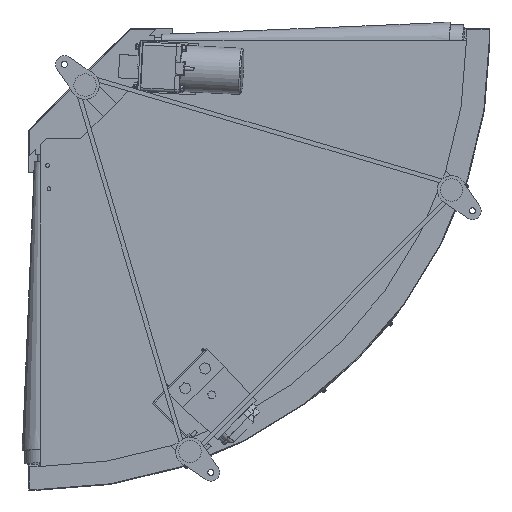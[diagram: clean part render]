
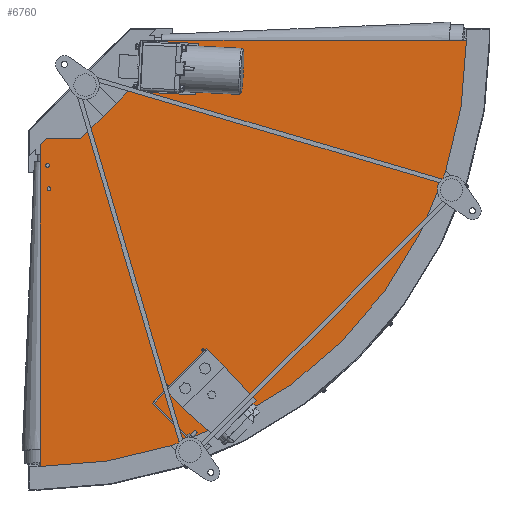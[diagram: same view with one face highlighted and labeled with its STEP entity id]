
A CAD part, front view. The second image highlights one B-rep face of the part: STEP entity #6760.
In plain terms, the highlighted planar face has unit normal (0, -1, 0).
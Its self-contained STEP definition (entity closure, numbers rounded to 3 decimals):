
#12 = EDGE_CURVE ( 'NONE', #25949, #38358, #553, .T. ) ;
#553 = LINE ( 'NONE', #16688, #2401 ) ;
#818 = CARTESIAN_POINT ( 'NONE',  ( 224., -152.7, 0. ) ) ;
#1082 = DIRECTION ( 'NONE',  ( 0., 0., -1. ) ) ;
#1154 = LINE ( 'NONE', #2167, #19800 ) ;
#1291 = CIRCLE ( 'NONE', #17933, 4. ) ;
#1315 = CIRCLE ( 'NONE', #18436, 4. ) ;
#1409 = DIRECTION ( 'NONE',  ( 0., 0., 1. ) ) ;
#1467 = DIRECTION ( 'NONE',  ( 0., 1., 0. ) ) ;
#2167 = CARTESIAN_POINT ( 'NONE',  ( 224., -152.7, 0. ) ) ;
#2401 = VECTOR ( 'NONE', #7579, 1000. ) ;
#2856 = CARTESIAN_POINT ( 'NONE',  ( 0., -152.7, -224. ) ) ;
#3492 = CARTESIAN_POINT ( 'NONE',  ( 14., -152.7, -210. ) ) ;
#3615 = LINE ( 'NONE', #16519, #5489 ) ;
#3932 = EDGE_CURVE ( 'NONE', #38303, #11724, #27855, .T. ) ;
#3980 = VERTEX_POINT ( 'NONE', #3492 ) ;
#4445 = DIRECTION ( 'NONE',  ( 0., 0., 1. ) ) ;
#4872 = CIRCLE ( 'NONE', #37830, 4. ) ;
#5016 = CARTESIAN_POINT ( 'NONE',  ( 210., -152.7, -14. ) ) ;
#5256 = ORIENTED_EDGE ( 'NONE', *, *, #9727, .F. ) ;
#5489 = VECTOR ( 'NONE', #21995, 1000. ) ;
#5633 = CIRCLE ( 'NONE', #26972, 4. ) ;
#5894 = CARTESIAN_POINT ( 'NONE',  ( 16., -152.7, -264. ) ) ;
#6060 = DIRECTION ( 'NONE',  ( 0., 0., -1. ) ) ;
#6136 = CARTESIAN_POINT ( 'NONE',  ( 912.5, -152.7, 0. ) ) ;
#6258 = VERTEX_POINT ( 'NONE', #818 ) ;
#6367 = ORIENTED_EDGE ( 'NONE', *, *, #37502, .F. ) ;
#6384 = DIRECTION ( 'NONE',  ( 0., 0., -1. ) ) ;
#6760 = ADVANCED_FACE ( 'NONE', ( #14156, #26699, #27632, #18807, #17436 ), #33267, .F. ) ;
#7530 = ORIENTED_EDGE ( 'NONE', *, *, #22059, .F. ) ;
#7579 = DIRECTION ( 'NONE',  ( 0., 0., 1. ) ) ;
#8595 = EDGE_LOOP ( 'NONE', ( #11328, #13429 ) ) ;
#9411 = AXIS2_PLACEMENT_3D ( 'NONE', #10167, #1467, #4445 ) ;
#9556 = VERTEX_POINT ( 'NONE', #15861 ) ;
#9669 = EDGE_CURVE ( 'NONE', #18019, #23298, #13264, .T. ) ;
#9727 = EDGE_CURVE ( 'NONE', #6258, #13460, #1154, .T. ) ;
#9756 = EDGE_LOOP ( 'NONE', ( #38096, #6367 ) ) ;
#10167 = CARTESIAN_POINT ( 'NONE',  ( 0., -152.7, 0. ) ) ;
#10595 = DIRECTION ( 'NONE',  ( 0.707, 0., 0.707 ) ) ;
#10758 = DIRECTION ( 'NONE',  ( 1., 0., 0. ) ) ;
#10759 = VERTEX_POINT ( 'NONE', #13451 ) ;
#11328 = ORIENTED_EDGE ( 'NONE', *, *, #3932, .F. ) ;
#11724 = VERTEX_POINT ( 'NONE', #23449 ) ;
#11878 = CARTESIAN_POINT ( 'NONE',  ( 18.5, -152.7, -317.937 ) ) ;
#12456 = ORIENTED_EDGE ( 'NONE', *, *, #35833, .F. ) ;
#12474 = DIRECTION ( 'NONE',  ( 0., 0., 1. ) ) ;
#12871 = VECTOR ( 'NONE', #10595, 1000. ) ;
#13039 = EDGE_CURVE ( 'NONE', #33413, #29042, #5633, .T. ) ;
#13264 = CIRCLE ( 'NONE', #13844, 4. ) ;
#13429 = ORIENTED_EDGE ( 'NONE', *, *, #14489, .F. ) ;
#13451 = CARTESIAN_POINT ( 'NONE',  ( 317.937, -152.7, -22.5 ) ) ;
#13460 = VERTEX_POINT ( 'NONE', #6136 ) ;
#13794 = DIRECTION ( 'NONE',  ( 0., -1., 0. ) ) ;
#13844 = AXIS2_PLACEMENT_3D ( 'NONE', #37018, #22102, #1409 ) ;
#14154 = CARTESIAN_POINT ( 'NONE',  ( 0., -152.7, -224. ) ) ;
#14156 = FACE_BOUND ( 'NONE', #9756, .T. ) ;
#14489 = EDGE_CURVE ( 'NONE', #11724, #38303, #1315, .T. ) ;
#15861 = CARTESIAN_POINT ( 'NONE',  ( 86.985, -152.7, -210. ) ) ;
#15901 = EDGE_LOOP ( 'NONE', ( #37626, #31258 ) ) ;
#16023 = DIRECTION ( 'NONE',  ( 0., 0., 1. ) ) ;
#16519 = CARTESIAN_POINT ( 'NONE',  ( 0., -152.7, -912.5 ) ) ;
#16688 = CARTESIAN_POINT ( 'NONE',  ( 210., -152.7, -14. ) ) ;
#17436 = FACE_OUTER_BOUND ( 'NONE', #35872, .T. ) ;
#17746 = LINE ( 'NONE', #19906, #37260 ) ;
#17883 = DIRECTION ( 'NONE',  ( 0., 0., 1. ) ) ;
#17933 = AXIS2_PLACEMENT_3D ( 'NONE', #31598, #13794, #6060 ) ;
#18004 = LINE ( 'NONE', #25549, #12871 ) ;
#18019 = VERTEX_POINT ( 'NONE', #5894 ) ;
#18212 = DIRECTION ( 'NONE',  ( 0., 0., -1. ) ) ;
#18436 = AXIS2_PLACEMENT_3D ( 'NONE', #36829, #28253, #1082 ) ;
#18580 = VECTOR ( 'NONE', #33441, 1000. ) ;
#18594 = AXIS2_PLACEMENT_3D ( 'NONE', #24217, #24454, #6384 ) ;
#18642 = CARTESIAN_POINT ( 'NONE',  ( 18.5, -152.7, -317.937 ) ) ;
#18652 = CARTESIAN_POINT ( 'NONE',  ( 0., -152.7, -224. ) ) ;
#18709 = CIRCLE ( 'NONE', #18594, 4. ) ;
#18783 = CIRCLE ( 'NONE', #25702, 4. ) ;
#18802 = ORIENTED_EDGE ( 'NONE', *, *, #21421, .F. ) ;
#18807 = FACE_BOUND ( 'NONE', #8595, .T. ) ;
#19134 = VECTOR ( 'NONE', #28736, 1000. ) ;
#19514 = CIRCLE ( 'NONE', #9411, 912.5 ) ;
#19800 = VECTOR ( 'NONE', #10758, 1000. ) ;
#19906 = CARTESIAN_POINT ( 'NONE',  ( 86.985, -152.7, -210. ) ) ;
#20046 = DIRECTION ( 'NONE',  ( 0., 0., 1. ) ) ;
#20063 = LINE ( 'NONE', #2856, #19134 ) ;
#21064 = DIRECTION ( 'NONE',  ( 0., -1., 0. ) ) ;
#21355 = ORIENTED_EDGE ( 'NONE', *, *, #37745, .F. ) ;
#21421 = EDGE_CURVE ( 'NONE', #38358, #6258, #31599, .T. ) ;
#21571 = CARTESIAN_POINT ( 'NONE',  ( 268., -152.7, -16. ) ) ;
#21590 = EDGE_CURVE ( 'NONE', #13460, #24512, #19514, .T. ) ;
#21812 = EDGE_LOOP ( 'NONE', ( #25358, #32774 ) ) ;
#21995 = DIRECTION ( 'NONE',  ( 0., 0., 1. ) ) ;
#22059 = EDGE_CURVE ( 'NONE', #24512, #25011, #3615, .T. ) ;
#22102 = DIRECTION ( 'NONE',  ( 0., -1., 0. ) ) ;
#22169 = EDGE_CURVE ( 'NONE', #10759, #31839, #1291, .T. ) ;
#22894 = DIRECTION ( 'NONE',  ( 1., 0., 0. ) ) ;
#23038 = CARTESIAN_POINT ( 'NONE',  ( 16., -152.7, -268. ) ) ;
#23298 = VERTEX_POINT ( 'NONE', #33301 ) ;
#23449 = CARTESIAN_POINT ( 'NONE',  ( 268., -152.7, -12. ) ) ;
#23793 = CARTESIAN_POINT ( 'NONE',  ( 18.5, -152.7, -313.937 ) ) ;
#24217 = CARTESIAN_POINT ( 'NONE',  ( 317.937, -152.7, -18.5 ) ) ;
#24454 = DIRECTION ( 'NONE',  ( 0., -1., 0. ) ) ;
#24512 = VERTEX_POINT ( 'NONE', #33596 ) ;
#24615 = EDGE_CURVE ( 'NONE', #29042, #33413, #18783, .T. ) ;
#24943 = DIRECTION ( 'NONE',  ( 0., 1., 0. ) ) ;
#25011 = VERTEX_POINT ( 'NONE', #14154 ) ;
#25358 = ORIENTED_EDGE ( 'NONE', *, *, #30819, .F. ) ;
#25549 = CARTESIAN_POINT ( 'NONE',  ( 210., -152.7, -86.985 ) ) ;
#25702 = AXIS2_PLACEMENT_3D ( 'NONE', #11878, #35793, #17883 ) ;
#25928 = CARTESIAN_POINT ( 'NONE',  ( 317.937, -152.7, -14.5 ) ) ;
#25949 = VERTEX_POINT ( 'NONE', #37786 ) ;
#26699 = FACE_BOUND ( 'NONE', #15901, .T. ) ;
#26972 = AXIS2_PLACEMENT_3D ( 'NONE', #18642, #33810, #16023 ) ;
#27632 = FACE_BOUND ( 'NONE', #21812, .T. ) ;
#27855 = CIRCLE ( 'NONE', #28575, 4. ) ;
#28253 = DIRECTION ( 'NONE',  ( 0., -1., 0. ) ) ;
#28528 = CARTESIAN_POINT ( 'NONE',  ( 18.5, -152.7, -321.937 ) ) ;
#28575 = AXIS2_PLACEMENT_3D ( 'NONE', #21571, #21064, #18212 ) ;
#28736 = DIRECTION ( 'NONE',  ( 0.707, 0., 0.707 ) ) ;
#28769 = ORIENTED_EDGE ( 'NONE', *, *, #32463, .F. ) ;
#29042 = VERTEX_POINT ( 'NONE', #23793 ) ;
#30819 = EDGE_CURVE ( 'NONE', #23298, #18019, #4872, .T. ) ;
#31258 = ORIENTED_EDGE ( 'NONE', *, *, #24615, .F. ) ;
#31598 = CARTESIAN_POINT ( 'NONE',  ( 317.937, -152.7, -18.5 ) ) ;
#31599 = LINE ( 'NONE', #18652, #18580 ) ;
#31839 = VERTEX_POINT ( 'NONE', #25928 ) ;
#32463 = EDGE_CURVE ( 'NONE', #25011, #3980, #20063, .T. ) ;
#32774 = ORIENTED_EDGE ( 'NONE', *, *, #9669, .F. ) ;
#33267 = PLANE ( 'NONE',  #37599 ) ;
#33301 = CARTESIAN_POINT ( 'NONE',  ( 16., -152.7, -272. ) ) ;
#33413 = VERTEX_POINT ( 'NONE', #28528 ) ;
#33441 = DIRECTION ( 'NONE',  ( 0.707, 0., 0.707 ) ) ;
#33596 = CARTESIAN_POINT ( 'NONE',  ( 0., -152.7, -912.5 ) ) ;
#33645 = CARTESIAN_POINT ( 'NONE',  ( 0., -152.7, 0. ) ) ;
#33810 = DIRECTION ( 'NONE',  ( 0., -1., 0. ) ) ;
#33833 = ORIENTED_EDGE ( 'NONE', *, *, #21590, .F. ) ;
#34225 = ORIENTED_EDGE ( 'NONE', *, *, #12, .F. ) ;
#34372 = CARTESIAN_POINT ( 'NONE',  ( 268., -152.7, -20. ) ) ;
#35793 = DIRECTION ( 'NONE',  ( 0., -1., 0. ) ) ;
#35833 = EDGE_CURVE ( 'NONE', #9556, #25949, #18004, .T. ) ;
#35872 = EDGE_LOOP ( 'NONE', ( #18802, #34225, #12456, #21355, #28769, #7530, #33833, #5256 ) ) ;
#36829 = CARTESIAN_POINT ( 'NONE',  ( 268., -152.7, -16. ) ) ;
#37018 = CARTESIAN_POINT ( 'NONE',  ( 16., -152.7, -268. ) ) ;
#37260 = VECTOR ( 'NONE', #22894, 1000. ) ;
#37502 = EDGE_CURVE ( 'NONE', #31839, #10759, #18709, .T. ) ;
#37599 = AXIS2_PLACEMENT_3D ( 'NONE', #33645, #24943, #12474 ) ;
#37626 = ORIENTED_EDGE ( 'NONE', *, *, #13039, .F. ) ;
#37745 = EDGE_CURVE ( 'NONE', #3980, #9556, #17746, .T. ) ;
#37786 = CARTESIAN_POINT ( 'NONE',  ( 210., -152.7, -86.985 ) ) ;
#37830 = AXIS2_PLACEMENT_3D ( 'NONE', #23038, #37972, #20046 ) ;
#37972 = DIRECTION ( 'NONE',  ( 0., -1., 0. ) ) ;
#38096 = ORIENTED_EDGE ( 'NONE', *, *, #22169, .F. ) ;
#38303 = VERTEX_POINT ( 'NONE', #34372 ) ;
#38358 = VERTEX_POINT ( 'NONE', #5016 ) ;
